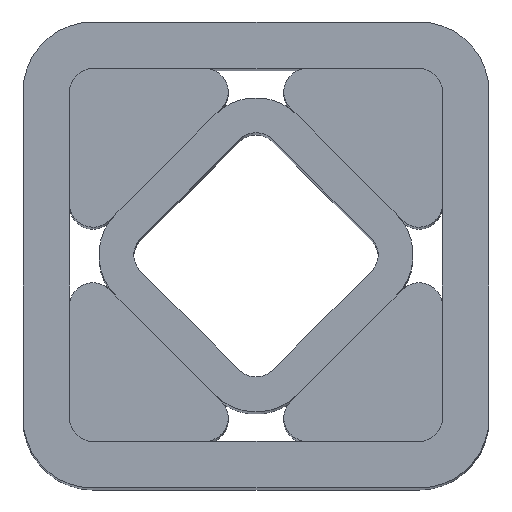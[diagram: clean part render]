
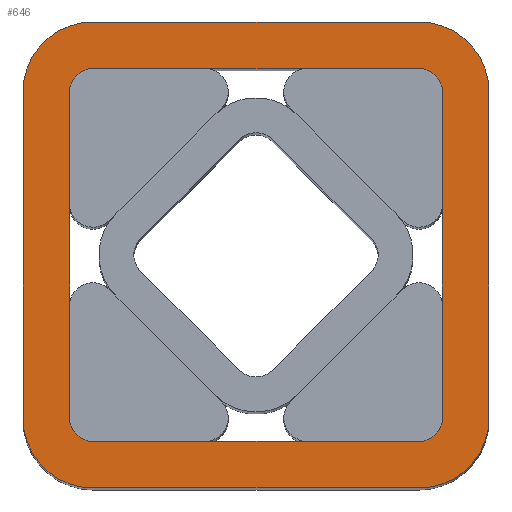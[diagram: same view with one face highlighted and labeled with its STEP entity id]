
A CAD part, top view. The second image highlights one B-rep face of the part: STEP entity #646.
In plain terms, the highlighted planar face has unit normal (0, 0, 1).
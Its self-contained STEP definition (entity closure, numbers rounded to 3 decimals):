
#88=CARTESIAN_POINT('',(-7.,-8.,50.0));
#89=VERTEX_POINT('',#88);
#90=CARTESIAN_POINT('',(-8.,-7.,50.0));
#91=VERTEX_POINT('',#90);
#92=CARTESIAN_POINT('',(-7.,-7.,50.0));
#93=DIRECTION('',(0.0,0.0,-1.));
#94=DIRECTION('',(1.,0.,0.0));
#95=AXIS2_PLACEMENT_3D('',#92,#93,#94);
#96=CIRCLE('',#95,1.0);
#97=EDGE_CURVE('',#89,#91,#96,.T.);
#130=CARTESIAN_POINT('',(-8.,7.,50.0));
#131=VERTEX_POINT('',#130);
#132=CARTESIAN_POINT('',(-8.,-7.,50.0));
#133=DIRECTION('',(0.0,1.0,0.0));
#134=VECTOR('',#133,14.);
#135=LINE('',#132,#134);
#136=EDGE_CURVE('',#91,#131,#135,.T.);
#161=CARTESIAN_POINT('',(-7.,8.,50.0));
#162=VERTEX_POINT('',#161);
#163=CARTESIAN_POINT('',(-7.,7.,50.0));
#164=DIRECTION('',(0.0,0.0,-1.));
#165=DIRECTION('',(0.,-1.,0.0));
#166=AXIS2_PLACEMENT_3D('',#163,#164,#165);
#167=CIRCLE('',#166,1.0);
#168=EDGE_CURVE('',#131,#162,#167,.T.);
#194=CARTESIAN_POINT('',(7.,8.,50.0));
#195=VERTEX_POINT('',#194);
#196=CARTESIAN_POINT('',(-7.,8.,50.0));
#197=DIRECTION('',(1.0,0.0,0.0));
#198=VECTOR('',#197,14.);
#199=LINE('',#196,#198);
#200=EDGE_CURVE('',#162,#195,#199,.T.);
#225=CARTESIAN_POINT('',(8.,7.,50.0));
#226=VERTEX_POINT('',#225);
#227=CARTESIAN_POINT('',(7.,7.,50.0));
#228=DIRECTION('',(0.0,0.0,-1.));
#229=DIRECTION('',(-1.,0.,0.0));
#230=AXIS2_PLACEMENT_3D('',#227,#228,#229);
#231=CIRCLE('',#230,1.0);
#232=EDGE_CURVE('',#195,#226,#231,.T.);
#258=CARTESIAN_POINT('',(8.,-7.,50.0));
#259=VERTEX_POINT('',#258);
#260=CARTESIAN_POINT('',(8.,7.,50.0));
#261=DIRECTION('',(0.0,-1.0,0.0));
#262=VECTOR('',#261,14.);
#263=LINE('',#260,#262);
#264=EDGE_CURVE('',#226,#259,#263,.T.);
#289=CARTESIAN_POINT('',(7.,-8.,50.0));
#290=VERTEX_POINT('',#289);
#291=CARTESIAN_POINT('',(7.,-7.,50.0));
#292=DIRECTION('',(0.0,0.0,-1.0));
#293=DIRECTION('',(0.,1.,0.0));
#294=AXIS2_PLACEMENT_3D('',#291,#292,#293);
#295=CIRCLE('',#294,1.);
#296=EDGE_CURVE('',#259,#290,#295,.T.);
#322=CARTESIAN_POINT('',(7.,-8.,50.0));
#323=DIRECTION('',(-1.0,0.0,0.0));
#324=VECTOR('',#323,14.);
#325=LINE('',#322,#324);
#326=EDGE_CURVE('',#290,#89,#325,.T.);
#344=CARTESIAN_POINT('',(10.,-7.,50.0));
#345=VERTEX_POINT('',#344);
#346=CARTESIAN_POINT('',(7.,-10.,50.0));
#347=VERTEX_POINT('',#346);
#348=CARTESIAN_POINT('',(7.,-7.,50.0));
#349=DIRECTION('',(0.0,0.0,-1.0));
#350=DIRECTION('',(0.,-1.,0.0));
#351=AXIS2_PLACEMENT_3D('',#348,#349,#350);
#352=CIRCLE('',#351,3.);
#353=EDGE_CURVE('',#345,#347,#352,.T.);
#386=CARTESIAN_POINT('',(-7.,-10.,50.0));
#387=VERTEX_POINT('',#386);
#388=CARTESIAN_POINT('',(7.,-10.,50.0));
#389=DIRECTION('',(-1.0,0.0,0.0));
#390=VECTOR('',#389,14.);
#391=LINE('',#388,#390);
#392=EDGE_CURVE('',#347,#387,#391,.T.);
#417=CARTESIAN_POINT('',(-10.,-7.,50.0));
#418=VERTEX_POINT('',#417);
#419=CARTESIAN_POINT('',(-7.,-7.,50.0));
#420=DIRECTION('',(0.0,0.0,-1.0));
#421=DIRECTION('',(-1.,0.,0.0));
#422=AXIS2_PLACEMENT_3D('',#419,#420,#421);
#423=CIRCLE('',#422,3.);
#424=EDGE_CURVE('',#387,#418,#423,.T.);
#450=CARTESIAN_POINT('',(-10.,7.,50.0));
#451=VERTEX_POINT('',#450);
#452=CARTESIAN_POINT('',(-10.,-7.,50.0));
#453=DIRECTION('',(0.0,1.0,0.0));
#454=VECTOR('',#453,14.);
#455=LINE('',#452,#454);
#456=EDGE_CURVE('',#418,#451,#455,.T.);
#481=CARTESIAN_POINT('',(-7.,10.,50.0));
#482=VERTEX_POINT('',#481);
#483=CARTESIAN_POINT('',(-7.,7.,50.0));
#484=DIRECTION('',(0.0,0.0,-1.));
#485=DIRECTION('',(0.,1.,0.0));
#486=AXIS2_PLACEMENT_3D('',#483,#484,#485);
#487=CIRCLE('',#486,3.0);
#488=EDGE_CURVE('',#451,#482,#487,.T.);
#514=CARTESIAN_POINT('',(7.,10.,50.0));
#515=VERTEX_POINT('',#514);
#516=CARTESIAN_POINT('',(-7.,10.,50.0));
#517=DIRECTION('',(1.0,0.0,0.0));
#518=VECTOR('',#517,14.);
#519=LINE('',#516,#518);
#520=EDGE_CURVE('',#482,#515,#519,.T.);
#545=CARTESIAN_POINT('',(10.,7.,50.0));
#546=VERTEX_POINT('',#545);
#547=CARTESIAN_POINT('',(7.,7.,50.0));
#548=DIRECTION('',(0.0,0.0,-1.));
#549=DIRECTION('',(1.,0.,0.0));
#550=AXIS2_PLACEMENT_3D('',#547,#548,#549);
#551=CIRCLE('',#550,3.);
#552=EDGE_CURVE('',#515,#546,#551,.T.);
#578=CARTESIAN_POINT('',(10.,7.,50.0));
#579=DIRECTION('',(0.0,-1.0,0.0));
#580=VECTOR('',#579,14.);
#581=LINE('',#578,#580);
#582=EDGE_CURVE('',#546,#345,#581,.T.);
#621=CARTESIAN_POINT('',(0.,0.,50.0));
#622=DIRECTION('',(0.0,0.0,1.0));
#623=DIRECTION('',(1.0,0.0,0.0));
#624=AXIS2_PLACEMENT_3D('',#621,#622,#623);
#625=PLANE('',#624);
#626=ORIENTED_EDGE('',*,*,#353,.F.);
#627=ORIENTED_EDGE('',*,*,#582,.F.);
#628=ORIENTED_EDGE('',*,*,#552,.F.);
#629=ORIENTED_EDGE('',*,*,#520,.F.);
#630=ORIENTED_EDGE('',*,*,#488,.F.);
#631=ORIENTED_EDGE('',*,*,#456,.F.);
#632=ORIENTED_EDGE('',*,*,#424,.F.);
#633=ORIENTED_EDGE('',*,*,#392,.F.);
#634=EDGE_LOOP('',(#626,#627,#628,#629,#630,#631,#632,#633));
#635=FACE_OUTER_BOUND('',#634,.T.);
#636=ORIENTED_EDGE('',*,*,#97,.T.);
#637=ORIENTED_EDGE('',*,*,#136,.T.);
#638=ORIENTED_EDGE('',*,*,#168,.T.);
#639=ORIENTED_EDGE('',*,*,#200,.T.);
#640=ORIENTED_EDGE('',*,*,#232,.T.);
#641=ORIENTED_EDGE('',*,*,#264,.T.);
#642=ORIENTED_EDGE('',*,*,#296,.T.);
#643=ORIENTED_EDGE('',*,*,#326,.T.);
#644=EDGE_LOOP('',(#636,#637,#638,#639,#640,#641,#642,#643));
#645=FACE_BOUND('',#644,.T.);
#646=ADVANCED_FACE('',(#635,#645),#625,.T.);
